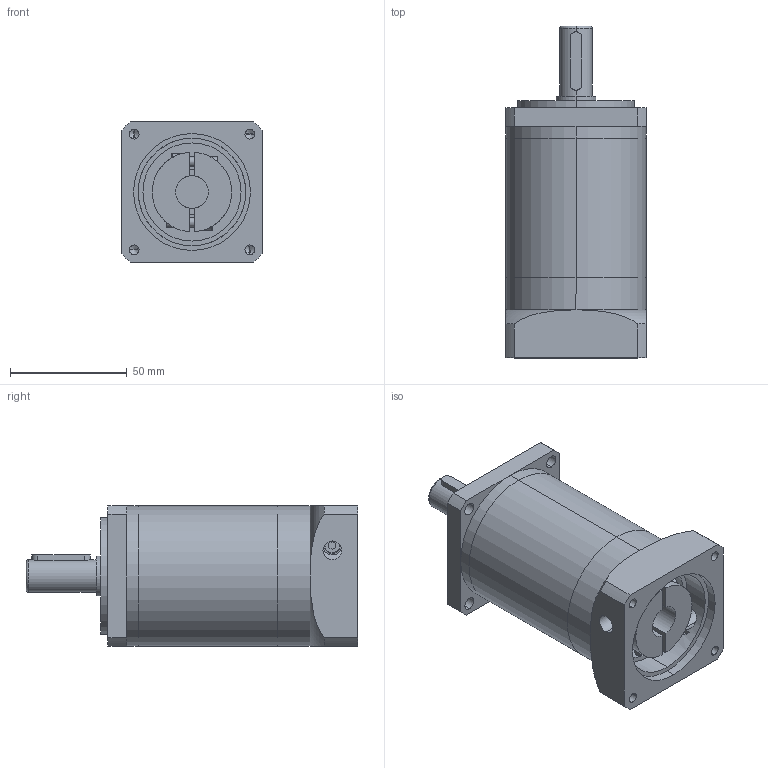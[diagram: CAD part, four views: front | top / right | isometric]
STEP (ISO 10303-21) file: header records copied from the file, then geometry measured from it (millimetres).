
FILE_DESCRIPTION (( 'STEP AP203' ), '1' );
FILE_NAME ('WPF060ﾐﾂ-L2(400W)ﾍ簟ﾎﾍｼ(14-32-50-70-M5).STEP', '2018-06-29T01:15:16', ( 'wanshsin' ), ( 'Microsoft' ), 'SwSTEP 2.0', 'SolidWorks 2014', '' );
FILE_SCHEMA (( 'CONFIG_CONTROL_DESIGN' ));
Length unit declared in the file: millimetre
Products named in the file (1): WPF060ﾐﾂ-L2(400W)ﾍ簟ﾎﾍｼ(14-32-50-70-M5)
Bounding box: 60 x 142 x 60 mm (x, y, z)
Volume: 301952.8 mm3; surface area: 52814.9 mm2
Topology: 4 solids, 4 shells, 172 faces, 402 edges, 249 vertices
Faces by surface type: cylinder 83, plane 65, cone 14, torus 10
Entity records: 5505 total; most frequent: CARTESIAN_POINT 1409, DIRECTION 890, ORIENTED_EDGE 784, EDGE_CURVE 392, AXIS2_PLACEMENT_3D 354, VERTEX_POINT 249, EDGE_LOOP 211, LINE 182
